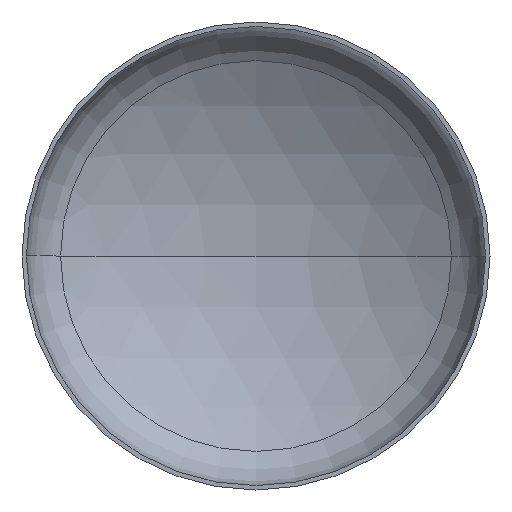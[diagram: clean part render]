
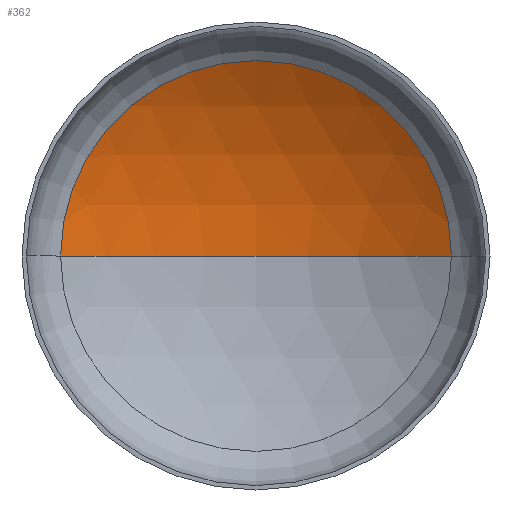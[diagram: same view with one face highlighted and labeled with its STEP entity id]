
A CAD part, front view. The second image highlights one B-rep face of the part: STEP entity #362.
In plain terms, the highlighted spherical face has radius 1520 mm.
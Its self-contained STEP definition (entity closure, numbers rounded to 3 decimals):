
#2 = AXIS2_PLACEMENT_3D ( 'NONE', #180, #210, #150 ) ;
#8 = AXIS2_PLACEMENT_3D ( 'NONE', #148, #158, #162 ) ;
#9 = AXIS2_PLACEMENT_3D ( 'NONE', #317, #244, #107 ) ;
#14 = EDGE_LOOP ( 'NONE', ( #32, #21, #127 ) ) ;
#21 = ORIENTED_EDGE ( 'NONE', *, *, #359, .T. ) ;
#32 = ORIENTED_EDGE ( 'NONE', *, *, #361, .F. ) ;
#35 = DIRECTION ( 'NONE',  ( 0., -1., 0. ) ) ;
#43 = VERTEX_POINT ( 'NONE', #377 ) ;
#56 = AXIS2_PLACEMENT_3D ( 'NONE', #365, #35, #172 ) ;
#102 = CIRCLE ( 'NONE', #9, 1520. ) ;
#107 = DIRECTION ( 'NONE',  ( -1., 0., 0. ) ) ;
#113 = VERTEX_POINT ( 'NONE', #334 ) ;
#127 = ORIENTED_EDGE ( 'NONE', *, *, #130, .T. ) ;
#130 = EDGE_CURVE ( 'NONE', #43, #238, #275, .T. ) ;
#148 = CARTESIAN_POINT ( 'NONE',  ( 0., -994.16, 0. ) ) ;
#150 = DIRECTION ( 'NONE',  ( -1., 0., 0. ) ) ;
#158 = DIRECTION ( 'NONE',  ( 0., 0., 1. ) ) ;
#162 = DIRECTION ( 'NONE',  ( 1., 0., 0. ) ) ;
#172 = DIRECTION ( 'NONE',  ( 1., 0., 0. ) ) ;
#180 = CARTESIAN_POINT ( 'NONE',  ( 0., -994.16, 0. ) ) ;
#198 = CIRCLE ( 'NONE', #8, 1520. ) ;
#210 = DIRECTION ( 'NONE',  ( 0., 0., -1. ) ) ;
#229 = CARTESIAN_POINT ( 'NONE',  ( -793.366, 302.363, 0. ) ) ;
#238 = VERTEX_POINT ( 'NONE', #229 ) ;
#244 = DIRECTION ( 'NONE',  ( 0., 0., -1. ) ) ;
#266 = FACE_OUTER_BOUND ( 'NONE', #14, .T. ) ;
#275 = CIRCLE ( 'NONE', #56, 793.366 ) ;
#317 = CARTESIAN_POINT ( 'NONE',  ( 0., -994.16, 0. ) ) ;
#334 = CARTESIAN_POINT ( 'NONE',  ( 0., 525.84, 0. ) ) ;
#359 = EDGE_CURVE ( 'NONE', #113, #43, #102, .T. ) ;
#361 = EDGE_CURVE ( 'NONE', #113, #238, #198, .T. ) ;
#362 = ADVANCED_FACE ( 'NONE', ( #266 ), #369, .F. ) ;
#365 = CARTESIAN_POINT ( 'NONE',  ( 0., 302.363, 0. ) ) ;
#369 = SPHERICAL_SURFACE ( 'NONE', #2, 1520. ) ;
#377 = CARTESIAN_POINT ( 'NONE',  ( 793.366, 302.363, 0. ) ) ;
